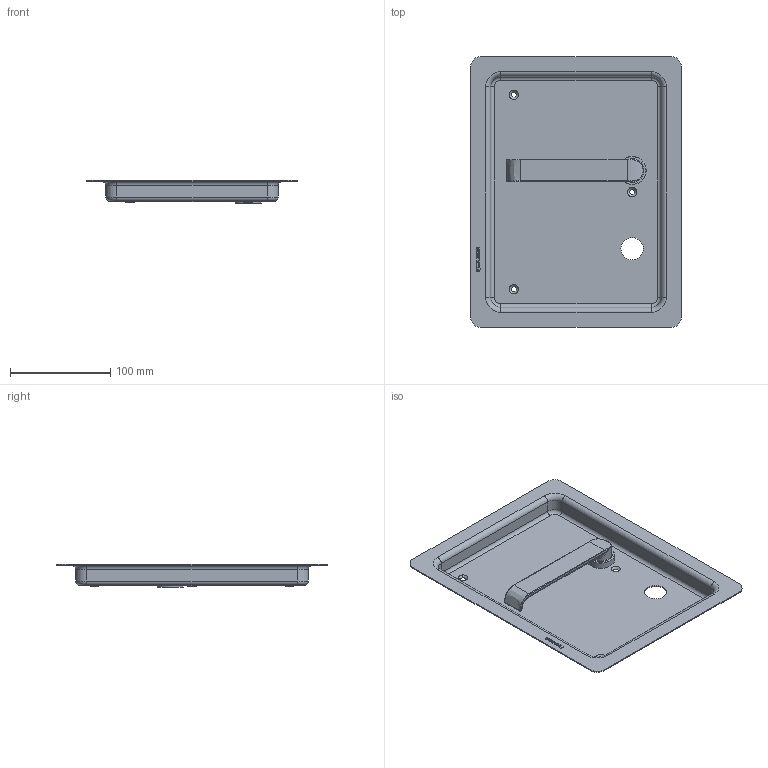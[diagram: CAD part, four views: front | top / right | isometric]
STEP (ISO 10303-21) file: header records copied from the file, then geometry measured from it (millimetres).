
FILE_DESCRIPTION(/* description */ (''),/* implementation_level */ '2;1');
FILE_NAME(/* name */ 'C:\ADSK_DMS_WS\Designs\Vorschläge\Loc Schalen\Muschel Serie 6\S6.20.D1Links\Heusser-Muschel S6.20.D1.278L.stp',/* time_stamp */ '2020-10-14T15:27:50+02:00',/* author */ ('gm'),/* organization */ (''),/* preprocessor_version */ 'ST-DEVELOPER v16.5',/* originating_system */ 'Autodesk Inventor 2017',/* authorisation */ '');
FILE_SCHEMA (('AUTOMOTIVE_DESIGN { 1 0 10303 214 3 1 1 }'));
Length unit declared in the file: millimetre
Products named in the file (1): S6.20.D1.0L
Bounding box: 210 x 270 x 23 mm (x, y, z)
Volume: 90362.9 mm3; surface area: 149418.5 mm2
Topology: 1 solids, 2 shells, 303 faces, 759 edges, 481 vertices
Faces by surface type: plane 130, bspline 78, cylinder 60, torus 19, cone 16
Full cylindrical faces by diameter (mm): 1.7 x2, 6 x1, 14.2 x1, 16 x3, 18 x1, 19 x1, 19.1 x1, 22 x1, 22.3 x1, 23 x1, 23.2 x1, 24 x1, 25 x1, 26 x1, 28 x1
Entity records: 10121 total; most frequent: CARTESIAN_POINT 2991, ORIENTED_EDGE 1428, DIRECTION 1260, EDGE_CURVE 714, VERTEX_POINT 474, AXIS2_PLACEMENT_3D 434, LINE 392, VECTOR 392
